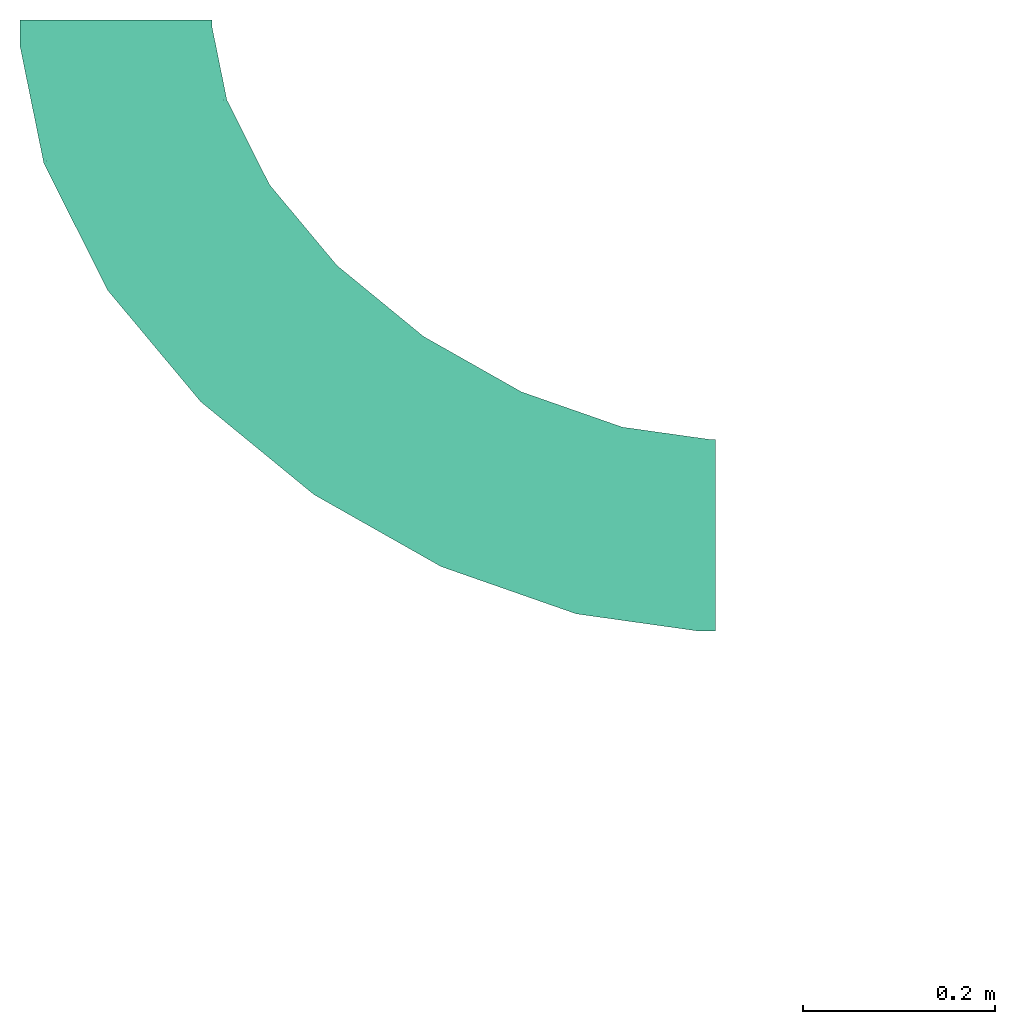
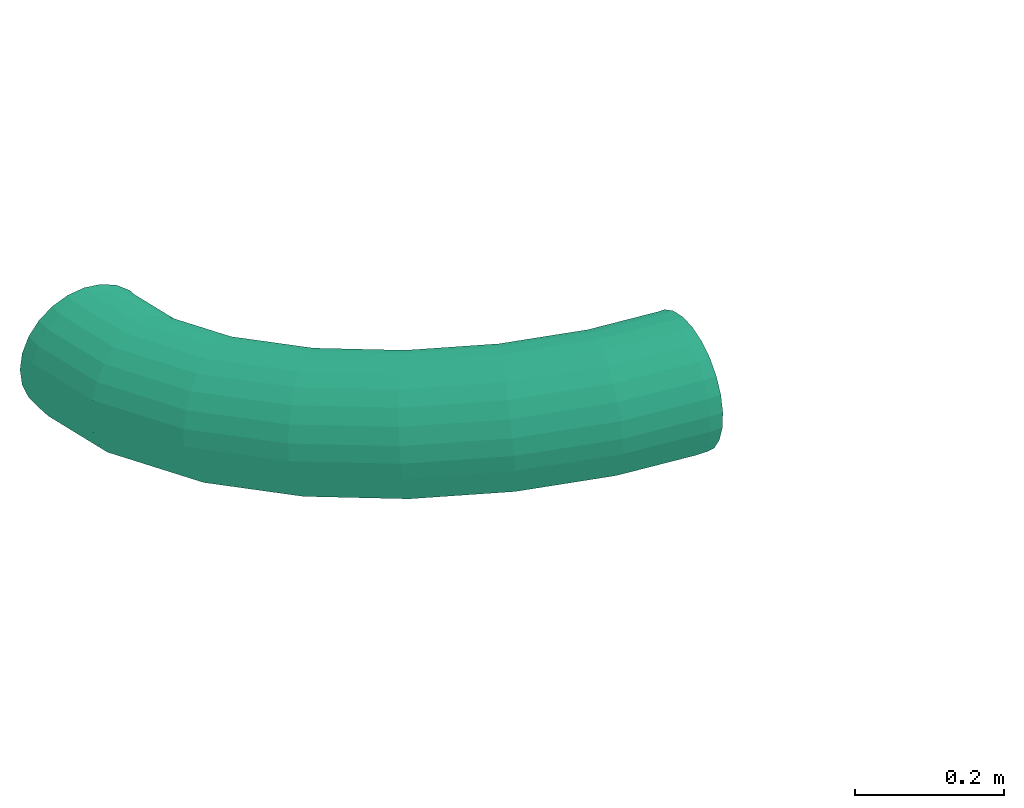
# One storey, part 3 of 3: 1 flow segment.
"""IFC2X3 building model written with IfcOpenShell, lengths in millimetres."""

from ifc_helpers import new_model, entity, si_unit, converted_unit, derived_unit, direction, frame, origin, place, context, subcontext, project, spatial, faceted_brep, type_object, element, save


model = new_model("IFC2X3")

# Units and contexts
model_context = context("Model", 3, precision=0.01, world=origin(), true_north=direction((6.123233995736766e-17, 1.0)))
body_context = subcontext(model_context, "Body", "Model", "MODEL_VIEW")
ifc_project = project(units=[si_unit("LENGTHUNIT", "METRE", prefix="MILLI"), converted_unit("PLANEANGLEUNIT", "DEGREE", entity("IfcPlaneAngleMeasure", 0.017453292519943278), si_unit("PLANEANGLEUNIT", "RADIAN"), dimensions=[0, 0, 0, 0, 0, 0, 0]), si_unit("AREAUNIT", "SQUARE_METRE"), derived_unit("THERMALTRANSMITTANCEUNIT", [(si_unit("MASSUNIT", "GRAM", prefix="KILO"), 1), (si_unit("THERMODYNAMICTEMPERATUREUNIT", "KELVIN"), -1), (si_unit("TIMEUNIT", "SECOND"), -3)])], contexts=[model_context])

# Site, building, storey
site_placement = place(None, origin())
site = spatial("IfcSite", under=ifc_project, at=site_placement, Name="Default", CompositionType="ELEMENT")
building_placement = place(site_placement, origin())
building = spatial("IfcBuilding", under=site, at=building_placement, Name="Praça Pedro II, 1301 - Centro (Sul), Teresina - PI, 64001-100", CompositionType="ELEMENT")
storey_placement = place(building_placement, origin())
storey = spatial("IfcBuildingStorey", under=building, at=storey_placement, Name="Nível 1", CompositionType="ELEMENT", Elevation=0.0)

# Flow segment
duct_segment_type = type_object("IfcDuctSegmentType", Name="Duto flexível redondo:Flexível - Redondo", PredefinedType="FLEXIBLESEGMENT")
flow_segment_placement = place(storey_placement, frame((36544.564890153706, -53653.40034303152, 2407.7816113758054)))
element("IfcFlowSegment", 1, at=flow_segment_placement, inside=storey, type_object=duct_segment_type, Name="Duto flexível redondo:Flexível - Redondo", ObjectType="Duto flexível redondo:Flexível - Redondo", context=body_context, shape_type="Brep", body=[
    faceted_brep([(75.71336772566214, 637.9050441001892, 198.1878548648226), (101.59527223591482, 637.9050441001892, 201.5952722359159), (127.47717674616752, 637.9050441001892, 198.1878548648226), (151.59527223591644, 637.9050441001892, 188.19781261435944), (172.30595035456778, 637.9050441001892, 172.30595035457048), (188.19781261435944, 637.9050441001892, 151.5952722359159), (198.18785486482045, 637.9050441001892, 127.47717674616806), (201.59527223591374, 637.9050441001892, 101.5952722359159), (198.18785486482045, 637.9050441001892, 75.71336772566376), (188.19781261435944, 637.9050441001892, 51.5952722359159), (172.30595035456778, 637.9050441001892, 30.884594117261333), (151.59527223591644, 637.9050441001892, 14.992731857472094), (127.47717674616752, 637.9050441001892, 5.002689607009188), (101.59527223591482, 637.9050441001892, 1.5952722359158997), (75.71336772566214, 637.9050441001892, 5.002689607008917), (51.59527223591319, 637.9050441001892, 14.992731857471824), (30.884594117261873, 637.9050441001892, 30.88459411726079), (14.992731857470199, 637.9050441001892, 51.5952722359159), (5.002689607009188, 637.9050441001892, 75.71336772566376), (1.5952722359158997, 637.9050441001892, 101.59527223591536), (5.002689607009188, 637.9050441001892, 127.47717674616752), (14.992731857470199, 637.9050441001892, 151.59527223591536), (30.884594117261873, 637.9050441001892, 172.30595035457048), (51.59527223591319, 637.9050441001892, 188.19781261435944), (188.19781261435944, 628.7808684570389, 51.59527223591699), (172.30595035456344, 626.8739817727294, 30.884594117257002), (198.18785486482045, 630.1453231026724, 75.7133677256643), (201.59527223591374, 630.8743603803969, 101.5952722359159), (127.47717674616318, 621.9808268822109, 5.002689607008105), (101.59527223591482, 619.3280190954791, 1.5952722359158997), (151.59527223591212, 624.5546142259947, 14.992731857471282), (75.71336772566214, 616.77697533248, 5.002689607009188), (51.59527223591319, 614.5015450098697, 14.992731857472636), (30.884594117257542, 612.6567949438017, 30.884594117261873), (14.992731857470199, 611.3684418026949, 51.5952722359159), (5.002689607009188, 610.7242847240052, 75.7133677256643), (1.5952722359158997, 610.7682219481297, 101.59527223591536), (5.002689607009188, 611.4972592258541, 127.47717674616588), (14.992731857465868, 612.861713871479, 151.5952722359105), (30.884594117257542, 614.7686005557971, 172.3059503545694), (51.595272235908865, 617.0879681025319, 188.19781261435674), (75.71336772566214, 619.6617554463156, 198.1878548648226), (101.59527223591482, 622.3145632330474, 201.5952722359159), (127.47717674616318, 624.8656069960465, 198.18785486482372), (151.59527223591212, 627.1410373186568, 188.19781261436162), (172.30595035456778, 628.9857873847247, 172.3059503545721), (198.18785486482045, 630.9182976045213, 127.4771767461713), (188.19781261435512, 630.2741405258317, 151.59527223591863), (726.3109705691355, 10.736804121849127, 113.14169786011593), (726.3109705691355, 24.82910421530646, 91.16692704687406), (726.3109705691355, 44.12871002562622, 73.5882840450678), (726.3109705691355, 67.32038531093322, 61.60372432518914), (726.3109705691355, 92.82365572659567, 56.02997582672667), (726.3109705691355, 118.90051553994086, 57.246880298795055), (726.3109705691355, 143.77386984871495, 65.17150771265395), (726.3109705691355, 165.748640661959, 79.26380780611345), (726.3109705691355, 183.3272836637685, 98.56341361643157), (726.3109705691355, 195.3118433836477, 121.75508890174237), (726.3109705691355, 200.8855918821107, 147.25835931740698), (726.3109705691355, 199.66868741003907, 173.33521913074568), (726.3109705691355, 191.74405999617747, 198.20857343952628), (726.3109705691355, 177.65175990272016, 220.18334425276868), (726.3109705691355, 158.35215409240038, 237.76198725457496), (726.3109705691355, 135.1604788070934, 249.7465469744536), (726.3109705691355, 109.65720839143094, 255.32029547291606), (726.3109705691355, 83.58034857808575, 254.10339100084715), (726.3109705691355, 58.70699426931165, 246.1787635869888), (726.3109705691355, 36.73222345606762, 232.0864634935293), (726.3109705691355, 19.1535804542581, 212.78685768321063), (726.3109705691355, 7.16902073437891, 189.59518239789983), (726.3109705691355, 1.5952722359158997, 164.09191198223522), (726.3109705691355, 2.8121767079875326, 138.01505216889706), (214.02487131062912, 552.1918686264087, 78.06578108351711), (204.6565303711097, 547.767256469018, 54.04003243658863), (217.1057113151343, 554.5283951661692, 103.89917614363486), (189.6391254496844, 541.5560887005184, 33.45924526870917), (147.0659995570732, 525.5601145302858, 7.912392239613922), (122.41156676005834, 516.8654073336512, 4.687302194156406), (169.99606787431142, 533.981646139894, 17.725966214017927), (97.71292833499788, 508.4900544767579, 8.27048063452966), (74.65325567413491, 501.00482241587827, 18.41773987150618), (54.80402736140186, 494.91981734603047, 34.4375609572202), (39.51793550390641, 490.64972230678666, 55.23821955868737), (29.83670200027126, 488.4855372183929, 79.40218516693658), (26.42008691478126, 488.57474771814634, 105.2827234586), (29.500926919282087, 490.9112742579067, 131.11611851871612), (38.869267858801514, 495.33588641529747, 155.14186716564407), (53.886672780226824, 501.54705418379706, 175.72265433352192), (73.5297303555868, 509.12149674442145, 191.45593338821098), (96.459798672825, 517.5430283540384, 201.26950736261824), (121.11423146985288, 526.2377355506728, 204.494597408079), (145.81286989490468, 534.6130884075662, 200.9114189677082), (168.87254255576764, 542.0983204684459, 190.7641597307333), (188.7217708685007, 548.183325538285, 174.7443386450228), (204.00786272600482, 552.4534205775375, 153.94368004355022), (213.68909622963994, 554.6176056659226, 129.77971443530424), (259.1680908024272, 462.52338777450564, 84.34330987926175), (251.23258373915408, 455.2527216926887, 60.51680834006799), (261.52580130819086, 466.29627451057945, 110.07614794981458), (238.26007181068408, 444.97976014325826, 40.220380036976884), (201.02327101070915, 418.38418386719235, 15.415586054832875), (179.2966085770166, 403.87401371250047, 12.597626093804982), (221.1346102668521, 432.40458847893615, 24.837193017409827), (157.43525910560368, 389.86292213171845, 16.57535244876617), (136.92903743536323, 377.3057418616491, 27.07768964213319), (119.17540868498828, 367.0582239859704, 43.38892075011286), (105.38425331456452, 359.8187199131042, 64.39746232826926), (96.49541577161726, 356.0805898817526, 88.67161698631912), (93.11465564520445, 356.0985812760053, 114.5571411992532), (95.47236615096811, 359.87146801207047, 140.28997926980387), (103.40787321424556, 367.1421340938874, 164.11648080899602), (116.38038514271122, 377.41509564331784, 184.41290911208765), (133.5058466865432, 389.99026730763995, 199.79609613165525), (153.61718594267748, 404.01067191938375, 209.21770309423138), (175.34384837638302, 418.5208420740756, 212.0356630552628), (197.2051978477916, 432.53193365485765, 208.05793670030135), (217.71141951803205, 445.089113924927, 197.55559950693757), (235.465048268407, 455.3366318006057, 181.24436839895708), (249.25620363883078, 462.5761358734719, 160.23582682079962), (258.14504118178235, 466.3142659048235, 135.9616721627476), (330.121265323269, 377.5642938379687, 93.31661327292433), (323.7919873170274, 368.37033445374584, 69.69324824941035), (331.7297483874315, 382.234303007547, 118.95469807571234), (313.17324420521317, 355.2789779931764, 49.69449629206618), (282.2049662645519, 321.17749340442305, 25.68246962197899), (263.96586839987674, 302.49132509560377, 23.305574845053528), (298.9886857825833, 339.18237876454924, 34.68323929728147), (245.51435656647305, 284.39730532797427, 27.714536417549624), (228.10787080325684, 268.1285116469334, 38.608890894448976), (212.93263434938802, 254.79363545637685, 55.246206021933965), (201.02281449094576, 245.30142653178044, 76.49267626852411), (193.19004576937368, 240.2987632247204, 100.90038979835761), (189.96811842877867, 240.12656877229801, 126.8060012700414), (191.57660149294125, 244.79657794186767, 152.44408607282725), (197.90587949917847, 253.99053732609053, 176.06745109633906), (208.52462261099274, 267.08189378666, 196.06620305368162), (222.70918103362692, 283.1784930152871, 211.07746004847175), (239.49290055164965, 301.1833783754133, 220.07822972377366), (257.73199841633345, 319.86954668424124, 222.45512450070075), (276.1835102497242, 337.96356645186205, 218.0461629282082), (293.5899960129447, 354.23236013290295, 207.15180845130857), (308.76523246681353, 367.5672363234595, 190.51449332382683), (320.6750523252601, 377.0594452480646, 169.26802307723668), (328.5078210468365, 382.06210855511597, 144.86030954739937), (420.96356234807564, 303.0779916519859, 103.36225841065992), (416.15004621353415, 292.6411806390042, 79.9065114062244), (421.95853062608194, 308.2510533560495, 128.93249869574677), (407.84601539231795, 277.6518717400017, 60.163728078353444), (383.2293408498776, 238.3423787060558, 36.854082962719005), (368.5942828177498, 216.7010715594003, 34.875734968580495), (396.61737586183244, 259.13156158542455, 45.47934648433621), (353.70955678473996, 195.68245946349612, 39.67912364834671), (339.58953223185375, 176.718926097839, 50.936906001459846), (327.19646549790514, 161.10280492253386, 67.88188276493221), (317.3749236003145, 149.89830878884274, 89.35928177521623), (310.7942283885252, 143.86900559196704, 113.90545378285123), (307.9028433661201, 143.42578238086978, 139.84761772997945), (308.89781164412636, 148.5988440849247, 165.41785801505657), (313.71132777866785, 159.0356550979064, 188.87360501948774), (322.0153585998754, 174.0249639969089, 208.6163883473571), (333.2439981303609, 192.54527415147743, 223.30076994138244), (346.6320331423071, 213.3344570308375, 231.92603346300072), (361.2670911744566, 234.97576417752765, 233.90438145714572), (376.1518172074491, 255.99437627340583, 229.10099277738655), (390.2718417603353, 274.95790963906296, 217.84321042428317), (402.6649084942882, 290.5740308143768, 200.89823366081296), (412.48645039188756, 301.77852694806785, 179.42083465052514), (419.0671456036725, 307.8078301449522, 154.87466264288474), (523.4048195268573, 245.109614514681, 112.59440114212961), (520.0663588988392, 233.83811466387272, 89.27158810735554), (523.9316389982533, 250.54758732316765, 138.12245123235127), (514.1437676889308, 217.5012218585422, 69.74342329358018), (496.3092512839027, 174.35391277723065, 47.04499531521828), (485.61271890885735, 150.48391431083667, 45.4215925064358), (506.0406607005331, 197.2122683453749, 55.34071886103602), (474.6800145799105, 127.22897389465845, 50.58114265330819), (464.25618402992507, 106.17387728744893, 62.17203093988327), (455.05159408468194, 88.75349452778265, 79.40435748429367), (447.69352233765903, 76.15499591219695, 101.1037677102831), (442.6834092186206, 69.23694830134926, 125.79148267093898), (440.36268565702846, 68.47080520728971, 151.78507539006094), (440.88950512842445, 73.90877801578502, 177.31312548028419), (444.22796575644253, 85.1802778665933, 200.63593851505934), (450.1505569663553, 101.51717067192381, 220.16410332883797), (458.2536639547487, 121.80612418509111, 234.56680776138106), (467.9850733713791, 144.66447975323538, 242.86253130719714), (478.6816057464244, 168.53447821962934, 244.4859341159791), (489.61431007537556, 191.78941863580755, 239.326383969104), (500.0381406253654, 212.84451524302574, 227.7354956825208), (509.2427305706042, 230.26489800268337, 210.5031691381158), (516.6008023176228, 242.8633966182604, 188.8037589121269), (521.6109154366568, 249.7814442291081, 164.11604395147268), (628.825782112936, 208.25335575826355, 119.21956313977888), (627.0030784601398, 196.4519315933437, 95.99200758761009), (629.0302521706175, 213.80402525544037, 144.72735523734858), (623.6863554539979, 179.20400031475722, 76.62760810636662), (613.5613795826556, 133.36135613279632, 54.413684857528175), (607.4431270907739, 107.89074367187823, 53.07800324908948), (619.1016422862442, 157.6849799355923, 62.44601651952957), (601.1638336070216, 83.00892269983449, 58.52999618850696), (595.1514226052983, 60.41154819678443, 70.3981193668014), (589.8156299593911, 41.638593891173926, 87.87357980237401), (585.5200811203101, 27.969405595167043, 109.76545374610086), (582.5575106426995, 20.33551590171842, 134.58184616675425), (581.1298128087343, 19.25716177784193, 160.63156093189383), (581.3342828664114, 24.80783127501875, 186.1393530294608), (583.156986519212, 36.60925543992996, 209.3669085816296), (586.4737095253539, 53.85718671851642, 228.7313080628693), (591.0584226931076, 75.37620709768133, 242.91289964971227), (596.5986853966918, 99.69983090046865, 250.94523131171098), (602.7169378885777, 125.17044336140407, 252.28091292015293), (608.9962313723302, 150.05226433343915, 246.82891998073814), (615.0086423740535, 172.6496388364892, 234.9607968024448), (620.3444350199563, 191.42259314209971, 217.4853363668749), (624.6399838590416, 205.09178143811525, 195.59346242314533), (627.6025543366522, 212.72567113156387, 170.77707000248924), (720.8406948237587, 195.3118433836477, 121.75508890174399), (720.3200957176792, 183.3272836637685, 98.56341361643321), (720.8810718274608, 200.8855918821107, 147.25835931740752), (719.3547524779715, 165.748640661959, 79.26380780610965), (716.3788051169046, 118.90051553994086, 57.24688029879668), (714.5710068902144, 92.82365572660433, 56.02997582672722), (718.0104516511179, 143.77386984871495, 65.17150771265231), (712.7102554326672, 67.32038531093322, 61.60372432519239), (710.9233578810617, 44.12871002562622, 73.58828404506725), (709.3320883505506, 24.82910421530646, 91.16692704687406), (708.0448892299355, 10.736804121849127, 113.14169786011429), (707.1494810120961, 2.8121767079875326, 138.01505216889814), (706.7068842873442, 1.5952722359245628, 164.09191198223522), (706.7472612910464, 7.16902073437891, 189.5951823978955), (707.2678603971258, 19.1535804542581, 212.786857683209), (708.2332036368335, 36.73222345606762, 232.08646349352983), (709.5775044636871, 58.70699426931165, 246.1787635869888), (711.2091509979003, 83.58034857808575, 254.1033910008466), (713.0169492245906, 109.65720839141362, 255.32029547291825), (714.8777006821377, 135.1604788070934, 249.7465469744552), (716.6645982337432, 158.35215409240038, 237.76198725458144), (718.2558677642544, 177.65175990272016, 220.18334425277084), (719.5430668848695, 191.74405999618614, 198.20857343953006), (720.4384751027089, 199.66868741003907, 173.3352191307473)], [[[0, 1, 2, 3, 4, 5, 6, 7, 8, 9, 10, 11, 12, 13, 14, 15, 16, 17, 18, 19, 20, 21, 22, 23]], [[9, 24, 25, 10]], [[26, 24, 9, 8]], [[7, 27, 26, 8]], [[28, 29, 13, 12]], [[30, 28, 12, 11]], [[25, 30, 11, 10]], [[15, 14, 31, 32]], [[16, 15, 32, 33]], [[13, 29, 31, 14]], [[18, 17, 34, 35]], [[18, 35, 36, 19]], [[33, 34, 17, 16]], [[19, 36, 37, 20]], [[20, 37, 38, 21]], [[21, 38, 39, 22]], [[23, 40, 41, 0]], [[0, 41, 42, 1]], [[22, 39, 40, 23]], [[43, 44, 3, 2]], [[42, 43, 2, 1]], [[3, 44, 45, 4]], [[46, 27, 7, 6]], [[47, 46, 6, 5]], [[4, 45, 47, 5]], [[48, 49, 50, 51, 52, 53, 54, 55, 56, 57, 58, 59, 60, 61, 62, 63, 64, 65, 66, 67, 68, 69, 70, 71]], [[72, 73, 24, 26]], [[74, 72, 26, 27]], [[25, 24, 73, 75]], [[76, 77, 29, 28]], [[78, 76, 28, 30]], [[75, 78, 30, 25]], [[31, 29, 77, 79]], [[32, 31, 79, 80]], [[33, 32, 80, 81]], [[35, 34, 82, 83]], [[36, 35, 83, 84]], [[81, 82, 34, 33]], [[36, 84, 85, 37]], [[37, 85, 86, 38]], [[38, 86, 87, 39]], [[39, 87, 88, 40]], [[40, 88, 89, 41]], [[90, 42, 41, 89]], [[91, 92, 44, 43]], [[90, 91, 43, 42]], [[93, 45, 44, 92]], [[94, 47, 45, 93]], [[46, 47, 94, 95]], [[74, 27, 46, 95]], [[96, 97, 73, 72]], [[98, 96, 72, 74]], [[99, 75, 73, 97]], [[100, 101, 77, 76]], [[102, 100, 76, 78]], [[102, 78, 75, 99]], [[77, 101, 103, 79]], [[79, 103, 104, 80]], [[105, 81, 80, 104]], [[82, 106, 107, 83]], [[84, 83, 107, 108]], [[106, 82, 81, 105]], [[85, 84, 108, 109]], [[86, 85, 109, 110]], [[110, 111, 87, 86]], [[88, 87, 111, 112]], [[89, 88, 112, 113]], [[90, 89, 113, 114]], [[115, 116, 92, 91]], [[114, 115, 91, 90]], [[93, 92, 116, 117]], [[118, 119, 95, 94]], [[117, 118, 94, 93]], [[98, 74, 95, 119]], [[120, 121, 97, 96]], [[122, 120, 96, 98]], [[123, 99, 97, 121]], [[124, 125, 101, 100]], [[126, 124, 100, 102]], [[126, 102, 99, 123]], [[101, 125, 127, 103]], [[103, 127, 128, 104]], [[129, 105, 104, 128]], [[106, 130, 131, 107]], [[108, 107, 131, 132]], [[130, 106, 105, 129]], [[109, 108, 132, 133]], [[110, 109, 133, 134]], [[134, 135, 111, 110]], [[112, 111, 135, 136]], [[113, 112, 136, 137]], [[114, 113, 137, 138]], [[139, 140, 116, 115]], [[138, 139, 115, 114]], [[117, 116, 140, 141]], [[142, 143, 119, 118]], [[141, 142, 118, 117]], [[122, 98, 119, 143]], [[144, 145, 121, 120]], [[146, 144, 120, 122]], [[147, 123, 121, 145]], [[148, 149, 125, 124]], [[150, 148, 124, 126]], [[150, 126, 123, 147]], [[125, 149, 151, 127]], [[127, 151, 152, 128]], [[153, 129, 128, 152]], [[131, 130, 154, 155]], [[132, 131, 155, 156]], [[154, 130, 129, 153]], [[133, 132, 156, 157]], [[134, 133, 157, 158]], [[158, 159, 135, 134]], [[136, 135, 159, 160]], [[137, 136, 160, 161]], [[138, 137, 161, 162]], [[163, 164, 140, 139]], [[162, 163, 139, 138]], [[141, 140, 164, 165]], [[166, 167, 143, 142]], [[165, 166, 142, 141]], [[146, 122, 143, 167]], [[168, 169, 145, 144]], [[170, 168, 144, 146]], [[171, 147, 145, 169]], [[172, 173, 149, 148]], [[174, 172, 148, 150]], [[171, 174, 150, 147]], [[151, 149, 173, 175]], [[152, 151, 175, 176]], [[153, 152, 176, 177]], [[155, 154, 178, 179]], [[156, 155, 179, 180]], [[177, 178, 154, 153]], [[157, 156, 180, 181]], [[158, 157, 181, 182]], [[182, 183, 159, 158]], [[159, 183, 184, 160]], [[160, 184, 185, 161]], [[186, 162, 161, 185]], [[187, 188, 164, 163]], [[186, 187, 163, 162]], [[189, 165, 164, 188]], [[190, 191, 167, 166]], [[190, 166, 165, 189]], [[170, 146, 167, 191]], [[192, 193, 169, 168]], [[194, 192, 168, 170]], [[171, 169, 193, 195]], [[196, 197, 173, 172]], [[198, 196, 172, 174]], [[195, 198, 174, 171]], [[175, 173, 197, 199]], [[176, 175, 199, 200]], [[177, 176, 200, 201]], [[179, 178, 202, 203]], [[180, 179, 203, 204]], [[201, 202, 178, 177]], [[181, 180, 204, 205]], [[182, 181, 205, 206]], [[182, 206, 207, 183]], [[183, 207, 208, 184]], [[184, 208, 209, 185]], [[210, 186, 185, 209]], [[211, 212, 188, 187]], [[210, 211, 187, 186]], [[213, 189, 188, 212]], [[214, 215, 191, 190]], [[214, 190, 189, 213]], [[194, 170, 191, 215]], [[216, 217, 193, 192]], [[218, 216, 192, 194]], [[219, 195, 193, 217]], [[220, 221, 197, 196]], [[222, 220, 196, 198]], [[222, 198, 195, 219]], [[197, 221, 223, 199]], [[199, 223, 224, 200]], [[225, 201, 200, 224]], [[202, 226, 227, 203]], [[203, 227, 228, 204]], [[226, 202, 201, 225]], [[205, 204, 228, 229]], [[206, 205, 229, 230]], [[230, 231, 207, 206]], [[208, 207, 231, 232]], [[209, 208, 232, 233]], [[210, 209, 233, 234]], [[235, 236, 212, 211]], [[234, 235, 211, 210]], [[213, 212, 236, 237]], [[238, 239, 215, 214]], [[237, 238, 214, 213]], [[194, 215, 239, 218]], [[218, 58, 57, 216]], [[216, 57, 56, 217]], [[217, 56, 55, 219]], [[53, 52, 221, 220]], [[54, 53, 220, 222]], [[222, 219, 55, 54]], [[221, 52, 51, 223]], [[223, 51, 50, 224]], [[224, 50, 49, 225]], [[226, 48, 71, 227]], [[227, 71, 70, 228]], [[225, 49, 48, 226]], [[229, 228, 70, 69]], [[230, 229, 69, 68]], [[231, 230, 68, 67]], [[233, 232, 66, 65]], [[234, 233, 65, 64]], [[67, 66, 232, 231]], [[235, 234, 64, 63]], [[236, 235, 63, 62]], [[237, 236, 62, 61]], [[239, 238, 60, 59]], [[218, 239, 59, 58]], [[237, 61, 60, 238]]]),
])

save(model, "model.ifc")
